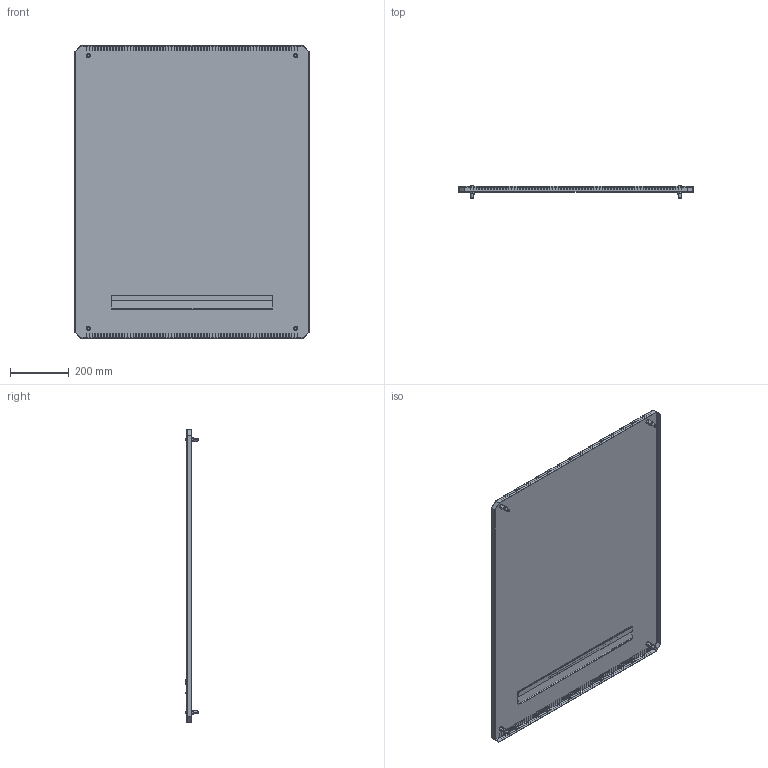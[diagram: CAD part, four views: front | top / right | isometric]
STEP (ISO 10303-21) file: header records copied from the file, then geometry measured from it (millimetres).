
FILE_DESCRIPTION (( 'STEP AP203' ), '1' );
FILE_NAME ('R 80.100 IK Ïàíåëü òåëåêîììóíèêàöèîííàÿ ïîòîëî÷íàÿ ñ ùåò. ââîäîì.STEP', '2013-01-12T09:30:19', ( 'System' ), ( '' ), 'SwSTEP 2.0', 'SolidWorks 2012', '' );
FILE_SCHEMA (( 'CONFIG_CONTROL_DESIGN' ));
Products named in the file (1): R 80.100 IK Ïàíåëü òåëåêîììóíèêàöèîííàÿ ïîòîëî÷íàÿ ñ ùåò. ââîäîì
Bounding box: 800 x 42.72 x 1000 mm (x, y, z)
Volume: 1190824.5 mm3; surface area: 1767227.6 mm2
Topology: 6 solids, 10 shells, 1784 faces, 4828 edges, 2776 vertices
Faces by surface type: plane 1336, cylinder 352, cone 56, bspline 16, torus 16, sphere 8
Entity records: 55591 total; most frequent: CARTESIAN_POINT 10769, ORIENTED_EDGE 9624, DIRECTION 9040, EDGE_CURVE 4812, VECTOR 3886, LINE 3886, VERTEX_POINT 2776, AXIS2_PLACEMENT_3D 2577
